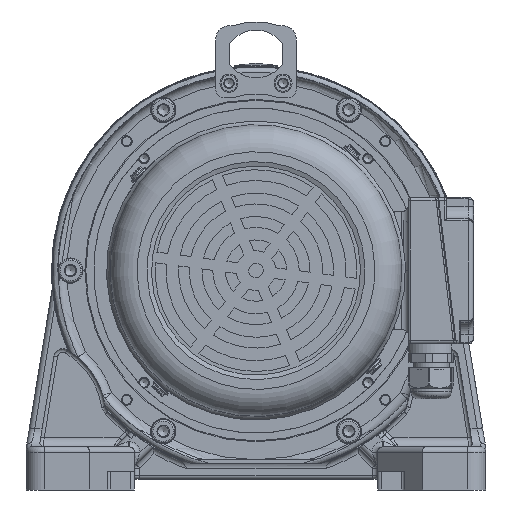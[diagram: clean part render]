
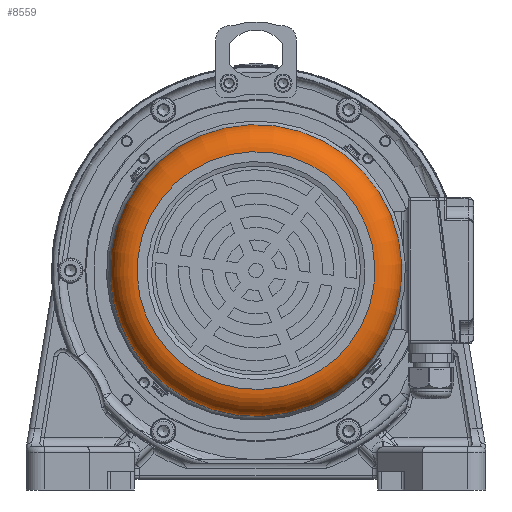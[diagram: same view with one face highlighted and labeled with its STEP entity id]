
A CAD part, left-side view. The second image highlights one B-rep face of the part: STEP entity #8559.
In plain terms, the highlighted toroidal (fillet/blend) face has major radius 66 mm and minor radius 15 mm.
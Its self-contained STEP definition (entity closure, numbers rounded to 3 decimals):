
#1067=FACE_BOUND('',#21137,.T.);
#1068=FACE_BOUND('',#21138,.T.);
#1792=TOROIDAL_SURFACE('',#91405,66.,15.);
#8559=ADVANCED_FACE('',(#1067,#1068),#1792,.T.);
#21137=EDGE_LOOP('',(#37794));
#21138=EDGE_LOOP('',(#37795));
#37794=ORIENTED_EDGE('',*,*,#64416,.T.);
#37795=ORIENTED_EDGE('',*,*,#64417,.F.);
#53875=VERTEX_POINT('',#150154);
#53876=VERTEX_POINT('',#150156);
#64416=EDGE_CURVE('',#53875,#53875,#85237,.T.);
#64417=EDGE_CURVE('',#53876,#53876,#85238,.T.);
#85237=CIRCLE('',#91403,66.);
#85238=CIRCLE('',#91404,81.);
#91403=AXIS2_PLACEMENT_3D('',#150153,#108596,#108597);
#91404=AXIS2_PLACEMENT_3D('',#150155,#108598,#108599);
#91405=AXIS2_PLACEMENT_3D('',#150157,#108600,#108601);
#108596=DIRECTION('',(1.,0.,0.));
#108597=DIRECTION('',(0.,0.609,-0.793));
#108598=DIRECTION('',(1.,0.,0.));
#108599=DIRECTION('',(0.,0.609,-0.793));
#108600=DIRECTION('',(1.,0.,0.));
#108601=DIRECTION('',(0.,0.609,-0.793));
#150153=CARTESIAN_POINT('',(1237.785,933.573,-726.599));
#150154=CARTESIAN_POINT('',(1237.785,973.751,-778.96));
#150155=CARTESIAN_POINT('',(1252.785,933.573,-726.599));
#150156=CARTESIAN_POINT('',(1252.785,982.882,-790.86));
#150157=CARTESIAN_POINT('',(1252.785,933.573,-726.599));
